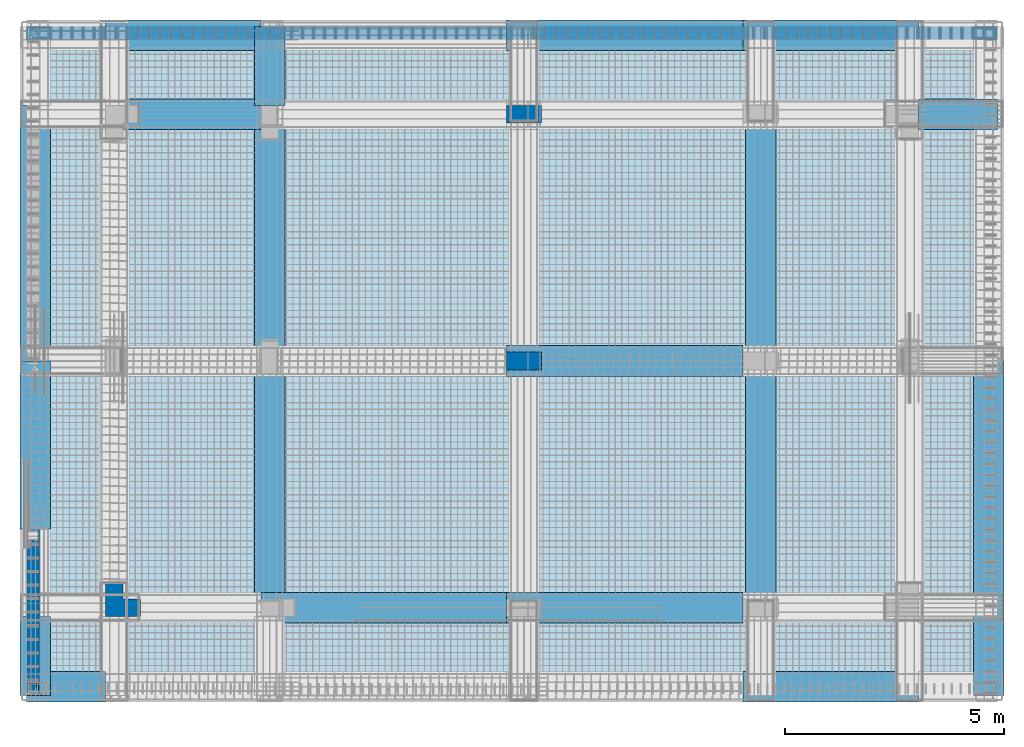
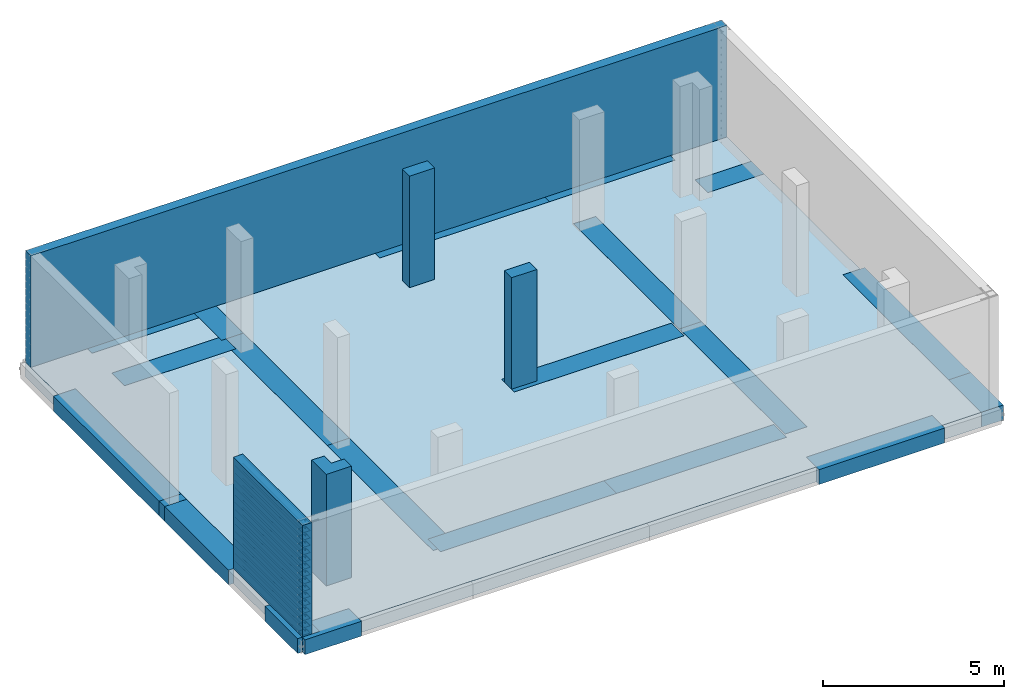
# One storey, part 1 of 9: 21 beams, 3 columns, 2 reinforcing bars, 2 walls, 1 footing.
"""IFC4 building model written with IfcOpenShell, lengths in metres."""

import ifcopenshell
import ifcopenshell.guid

model = None  # the IFC model being written
_history = None  # IfcOwnerHistory: only IFC2X3 demands one
_inside = {}  # id of a spatial element -> (the spatial element, [elements in it])
_under = {}  # id of a project, library or spatial element -> (it, [spatial elements below it])
_declared = {}  # id of a project -> (the project, [libraries it declares])
_typed = {}  # id of a type object -> (the type object, [elements of that type])
_made_of = {}  # id of a material, layer set ... -> (it, [elements and type objects made of it])


def new_model(schema):
    """Start an empty IFC model of exactly this schema.

    Asked for "IFC4X3", IfcOpenShell would pick the latest addendum, in which some entities
    have other attributes; the version numbers below select the first issue.
    IFC2X3 requires an IfcOwnerHistory on every rooted entity: one is made here for all.
    """
    global model, _history
    if schema == "IFC4X3":
        model = ifcopenshell.file(schema_version=(4, 3, 0, 0))
    else:
        model = ifcopenshell.file(schema=schema)
    _inside.clear()
    _under.clear()
    _declared.clear()
    _typed.clear()
    _made_of.clear()
    _history = None
    if model.schema == "IFC2X3":
        org = make("IfcOrganization", Name="unknown")
        user = make(
            "IfcPersonAndOrganization",
            ThePerson=make("IfcPerson", FamilyName="unknown"),
            TheOrganization=org,
        )
        app = make(
            "IfcApplication",
            ApplicationDeveloper=org,
            Version="unknown",
            ApplicationFullName="unknown",
            ApplicationIdentifier="unknown",
        )
        _history = make(
            "IfcOwnerHistory",
            OwningUser=user,
            OwningApplication=app,
            ChangeAction="ADDED",
            CreationDate=0,
        )
    return model


def make(cls, **values):
    """One entity of the class cls with the attributes given. An attribute that is None is left unset."""
    return model.create_entity(
        cls, **{name: value for name, value in values.items() if value is not None}
    )


def entity(cls, *values):
    """Any entity or typed value of the class cls, its attributes in the order of the schema. None: left unset."""
    e = model.create_entity(cls)
    for i, value in enumerate(values):
        if value is not None:
            e[i] = value
    return e


def rooted(cls, **values):
    """An entity with a GlobalId (a new one), such as an element, a storey or a relation."""
    return make(cls, GlobalId=ifcopenshell.guid.new(), OwnerHistory=_history, **values)


def si_unit(unit_type, name, prefix=None):
    """IfcSIUnit, for example si_unit("LENGTHUNIT", "METRE", prefix="MILLI")."""
    return make("IfcSIUnit", UnitType=unit_type, Prefix=prefix, Name=name)


def assignment(units):
    """IfcUnitAssignment: the units of a project."""
    return None if units is None else make("IfcUnitAssignment", Units=units)


def point(xyz):
    """IfcCartesianPoint."""
    return None if xyz is None else make("IfcCartesianPoint", Coordinates=xyz)


def direction(xyz):
    """IfcDirection."""
    return None if xyz is None else make("IfcDirection", DirectionRatios=xyz)


def frame(location, z_axis=None, x_axis=None):
    """IfcAxis2Placement3D, a coordinate frame: its origin and axes. An axis left out is left unset."""
    return make(
        "IfcAxis2Placement3D",
        Location=point(location),
        Axis=direction(z_axis),
        RefDirection=direction(x_axis),
    )


def frame_2d(location, x_axis=None):
    """IfcAxis2Placement2D, a coordinate frame in the plane: its origin and x axis."""
    return make(
        "IfcAxis2Placement2D", Location=point(location), RefDirection=direction(x_axis)
    )


def origin_with_axes():
    """The frame at (0, 0, 0) with the z axis (0, 0, 1) and the x axis (1, 0, 0) written out."""
    return frame((0.0, 0.0, 0.0), z_axis=(0.0, 0.0, 1.0), x_axis=(1.0, 0.0, 0.0))


def origin_2d_with_axis():
    """The frame at (0, 0) in the plane with the x axis (1, 0) written out."""
    return frame_2d((0.0, 0.0), x_axis=(1.0, 0.0))


def place(relative_to, where):
    """IfcLocalPlacement: puts the frame where relative to a parent placement (None: the world)."""
    return make(
        "IfcLocalPlacement", PlacementRelTo=relative_to, RelativePlacement=where
    )


def context(
    kind, dimensions, precision=None, world=None, true_north=None, identifier=None
):
    """IfcGeometricRepresentationContext, for example the 3D "Model" context."""
    return make(
        "IfcGeometricRepresentationContext",
        ContextIdentifier=identifier,
        ContextType=kind,
        CoordinateSpaceDimension=dimensions,
        Precision=precision,
        WorldCoordinateSystem=world,
        TrueNorth=true_north,
    )


def project(units=None, contexts=None):
    """IfcProject with its units and contexts."""
    return rooted(
        "IfcProject",
        Name="project",
        RepresentationContexts=contexts,
        UnitsInContext=assignment(units),
    )


def spatial(cls, under=None, at=None, **own):
    """A site, building, storey or space (cls), placed at a placement, below another one or the project."""
    s = rooted(cls, ObjectPlacement=at, **own)
    if under is not None:
        _under.setdefault(under.id(), (under, []))[1].append(s)
    return s


def polyline(points):
    """IfcPolyline through the points."""
    return make("IfcPolyline", Points=[point(p) for p in points])


def profile(cls, at=None, kind="AREA", **sizes):
    """A parametric profile (cls). Its sizes go by their IFC names, for example OverallWidth=200.0."""
    return make(cls, ProfileType=kind, Position=at, **sizes)


def rectangle(**sizes):
    """IfcRectangleProfileDef."""
    return profile("IfcRectangleProfileDef", **sizes)


def outline(outer, holes=None, kind="AREA"):
    """IfcArbitraryClosedProfileDef: a profile drawn as a closed curve; with holes, ...WithVoids."""
    if holes is None:
        return make("IfcArbitraryClosedProfileDef", ProfileType=kind, OuterCurve=outer)
    return make(
        "IfcArbitraryProfileDefWithVoids",
        ProfileType=kind,
        OuterCurve=outer,
        InnerCurves=holes,
    )


def extrude(swept, where, along, depth):
    """IfcExtrudedAreaSolid: the profile swept, set in the frame where, extruded along a direction by depth."""
    return make(
        "IfcExtrudedAreaSolid",
        SweptArea=swept,
        Position=where,
        ExtrudedDirection=direction(along),
        Depth=depth,
    )


def faces_of(points, faces, orient=None, outer=None):
    """IfcFace entities. A face is a list of loops; a loop is a list of indices into points, from 0.

    orient and outer hold one flag for each loop. By default every Orientation is true, the
    first loop of a face is its IfcFaceOuterBound and the others are IfcFaceBound.
    """
    made = []
    for i, loops in enumerate(faces):
        bounds = []
        for j, loop in enumerate(loops):
            is_outer = j == 0 if outer is None else outer[i][j]
            bounds.append(
                make(
                    "IfcFaceOuterBound" if is_outer else "IfcFaceBound",
                    Bound=make("IfcPolyLoop", Polygon=[points[k] for k in loop]),
                    Orientation=True if orient is None else orient[i][j],
                )
            )
        made.append(make("IfcFace", Bounds=bounds))
    return made


def faceted_brep(points, faces, orient=None, outer=None, voids=None):
    """IfcFacetedBrep: a solid bounded by flat faces; with voids (closed shells), ...WithVoids."""
    shared = [point(p) for p in points]
    hull = make("IfcClosedShell", CfsFaces=faces_of(shared, faces, orient, outer))
    if voids is None:
        return make("IfcFacetedBrep", Outer=hull)
    return make(
        "IfcFacetedBrepWithVoids",
        Outer=hull,
        Voids=[
            make(cls, CfsFaces=faces_of(shared, fs, o, b)) for cls, fs, o, b in voids
        ],
    )


def shape(context_of_items, identifier, shape_type, items):
    """IfcShapeRepresentation: the items that make up one representation, for example the "Body"."""
    return make(
        "IfcShapeRepresentation",
        ContextOfItems=context_of_items,
        RepresentationIdentifier=identifier,
        RepresentationType=shape_type,
        Items=items,
    )


def source(mapping_origin, context_of_items, identifier, shape_type, items):
    """IfcRepresentationMap: a shape defined once, which mapped items show again and again."""
    return make(
        "IfcRepresentationMap",
        MappingOrigin=mapping_origin,
        MappedRepresentation=shape(context_of_items, identifier, shape_type, items),
    )


def transform(
    local_origin,
    x_axis=None,
    y_axis=None,
    z_axis=None,
    scale=None,
    scale2=None,
    scale3=None,
    uniform=True,
):
    """IfcCartesianTransformationOperator3D, or its non-uniform kind. x_axis, y_axis, z_axis: its Axis1, 2, 3."""
    if uniform:
        return make(
            "IfcCartesianTransformationOperator3D",
            Axis1=direction(x_axis),
            Axis2=direction(y_axis),
            LocalOrigin=point(local_origin),
            Scale=scale,
            Axis3=direction(z_axis),
        )
    return make(
        "IfcCartesianTransformationOperator3DnonUniform",
        Axis1=direction(x_axis),
        Axis2=direction(y_axis),
        LocalOrigin=point(local_origin),
        Scale=scale,
        Axis3=direction(z_axis),
        Scale2=scale2,
        Scale3=scale3,
    )


def mapped(mapping_source, mapping_target):
    """IfcMappedItem: shows the shape of a source again, moved by a transform."""
    return make(
        "IfcMappedItem", MappingSource=mapping_source, MappingTarget=mapping_target
    )


def material(Name=None, Category=None):
    """IfcMaterial."""
    return make("IfcMaterial", Name=Name, Category=Category)


def layer(
    of_material, thickness, ventilated=None, Name=None, Category=None, Priority=None
):
    """IfcMaterialLayer: one layer of a wall or slab, of a material (None: an air gap)."""
    return make(
        "IfcMaterialLayer",
        Material=of_material,
        LayerThickness=thickness,
        IsVentilated=ventilated,
        Name=Name,
        Category=Category,
        Priority=Priority,
    )


def layer_set(layers, Name=None):
    """IfcMaterialLayerSet."""
    return make("IfcMaterialLayerSet", MaterialLayers=layers, LayerSetName=Name)


def layer_usage(for_layer_set, set_direction, sense, offset, extent=None):
    """IfcMaterialLayerSetUsage: how a layer set lies in its element."""
    return make(
        "IfcMaterialLayerSetUsage",
        ForLayerSet=for_layer_set,
        LayerSetDirection=set_direction,
        DirectionSense=sense,
        OffsetFromReferenceLine=offset,
        ReferenceExtent=extent,
    )


def material_profile(
    of_material, cross_section, Name=None, Category=None, Priority=None
):
    """IfcMaterialProfile: a cross section and its material."""
    return make(
        "IfcMaterialProfile",
        Name=Name,
        Material=of_material,
        Profile=cross_section,
        Priority=Priority,
        Category=Category,
    )


def profile_set(profiles, Name=None, composite=None):
    """IfcMaterialProfileSet."""
    return make(
        "IfcMaterialProfileSet",
        Name=Name,
        MaterialProfiles=profiles,
        CompositeProfile=composite,
    )


def profile_usage(for_profile_set, cardinal=None, extent=None):
    """IfcMaterialProfileSetUsage: how a profile set lies along its element."""
    return make(
        "IfcMaterialProfileSetUsage",
        ForProfileSet=for_profile_set,
        CardinalPoint=cardinal,
        ReferenceExtent=extent,
    )


def made_of(thing, what):
    """Note that an element or type object is made of a material, layer set ...; save() writes the relation."""
    if what is not None:
        _made_of.setdefault(what.id(), (what, []))[1].append(thing)
    return thing


def type_object(cls, material=None, **own):
    """A type object (cls), such as IfcWallType, which elements share."""
    return made_of(rooted(cls, **own), material)


def element(
    cls,
    number,
    at=None,
    inside=None,
    cuts=None,
    type_object=None,
    material=None,
    context=None,
    identifier="Body",
    shape_type=None,
    held_by="IfcProductDefinitionShape",
    body=None,
    shapes=None,
    **own,
):
    """One element of the class cls, such as IfcWall. Its Tag is "e" and its number.

    at: its placement. inside: the storey or other place that contains it. cuts: it is an
    opening in that element (IfcRelVoidsElement). A single representation is given by context,
    identifier, shape_type and body (its items); several are given by shapes. held_by: the class
    of the entity that holds the representations. save() writes the other relations.
    """
    e = rooted(cls, Tag="e%d" % number, ObjectPlacement=at, **own)
    if body is not None:
        shapes = [shape(context, identifier, shape_type, body)]
    if shapes is not None:
        e.Representation = make(held_by, Representations=shapes)
    if inside is not None:
        _inside.setdefault(inside.id(), (inside, []))[1].append(e)
    if cuts is not None:
        rooted(
            "IfcRelVoidsElement", RelatingBuildingElement=cuts, RelatedOpeningElement=e
        )
    if type_object is not None:
        _typed.setdefault(type_object.id(), (type_object, []))[1].append(e)
    return made_of(e, material)


def aggregate(whole, parts):
    """IfcRelAggregates: a whole, such as a stair, and the parts it consists of."""
    return rooted("IfcRelAggregates", RelatingObject=whole, RelatedObjects=parts)


def save(model, path):
    """Write the relations noted so far, then the file.

    IfcRelAggregates (storeys below a building ...), IfcRelContainedInSpatialStructure (elements
    in a storey), IfcRelDefinesByType, IfcRelAssociatesMaterial and IfcRelDeclares: one each for
    every whole, place, type object, material and project.
    """
    for whole, parts in _under.values():
        aggregate(whole, parts)
    for where, things in _inside.values():
        rooted(
            "IfcRelContainedInSpatialStructure",
            RelatedElements=things,
            RelatingStructure=where,
        )
    for kind, things in _typed.values():
        rooted("IfcRelDefinesByType", RelatedObjects=things, RelatingType=kind)
    for what, things in _made_of.values():
        rooted("IfcRelAssociatesMaterial", RelatedObjects=things, RelatingMaterial=what)
    for by, libraries in _declared.values():
        rooted("IfcRelDeclares", RelatingContext=by, RelatedDefinitions=libraries)
    model.write(path)


model = new_model("IFC4")

# Units and contexts
model_context = context("Model", 3, precision=1e-05, world=origin_with_axes())
ifc_project = project(units=[si_unit("LENGTHUNIT", "METRE"), si_unit("AREAUNIT", "SQUARE_METRE"), si_unit("VOLUMEUNIT", "CUBIC_METRE"), si_unit("MASSUNIT", "GRAM", prefix="KILO"), si_unit("TIMEUNIT", "SECOND"), si_unit("PLANEANGLEUNIT", "RADIAN"), si_unit("SOLIDANGLEUNIT", "STERADIAN"), si_unit("THERMODYNAMICTEMPERATUREUNIT", "DEGREE_CELSIUS")], contexts=[model_context])

# Site, building, storey
placement_1 = place(None, origin_with_axes())
site = spatial("IfcSite", under=ifc_project, at=placement_1, Name="Italia", CompositionType="ELEMENT")
building = spatial("IfcBuilding", under=site, at=placement_1, Name="Palazzina", CompositionType="ELEMENT")
storey = spatial("IfcBuildingStorey", under=building, at=placement_1, Name="Storey 0", CompositionType="ELEMENT", Elevation=0.0)

# Footing
ifc_material_1 = material(Name="Calcestruzzo classe C28/35", Category="Calcestruzzo classe C28/35")
ifc_layer_1 = layer(ifc_material_1, 0.5)
ifc_layer_set_1 = layer_set([ifc_layer_1])
ifc_layer_usage_1 = layer_usage(ifc_layer_set_1, "AXIS3", "POSITIVE", -0.5)
footing_type = type_object("IfcFootingType", Name="3 Spess. 0.5 S W", PredefinedType="STRIP_FOOTING")
placement_2 = place(placement_1, origin_with_axes())
footing_placement = place(placement_2, origin_with_axes())
element("IfcFooting", 1, at=footing_placement, inside=storey, type_object=footing_type, material=ifc_layer_usage_1, context=model_context, shape_type="Brep", body=[
    faceted_brep([(-1.8, 13.46, 0.0), (-1.8, 13.46, -0.5), (20.35, 13.46, -0.5), (20.35, 13.46, 0.0), (20.35, 13.46, 0.0), (20.35, 13.46, -0.5), (20.35, -1.8, -0.5), (20.35, -1.8, 0.0), (20.35, -1.8, 0.0), (20.35, -1.8, -0.5), (-1.8, -1.8, -0.5), (-1.8, -1.8, 0.0), (-1.8, -1.8, 0.0), (-1.8, -1.8, -0.5), (-1.8, 13.46, -0.5), (-1.8, 13.46, 0.0), (-1.8, 13.46, -0.5), (20.35, 13.46, -0.5), (20.35, -1.8, -0.5), (-1.8, -1.8, -0.5), (-1.8, 13.46, 0.0), (20.35, 13.46, 0.0), (20.35, -1.8, 0.0), (-1.8, -1.8, 0.0)], [[[0, 1, 2, 3]], [[4, 5, 6, 7]], [[8, 9, 10, 11]], [[12, 13, 14, 15]], [[16, 17, 18, 19]], [[20, 21, 22, 23]]]),
])

# Columns
ifc_material_2 = material(Name="Calcestruzzo classe C28/35", Category="Calcestruzzo classe C28/35")
ifc_material_profile = material_profile(ifc_material_2, rectangle(XDim=0.4, YDim=0.8, at=origin_2d_with_axis()), Name="2 R 40x80 P")
ifc_profile_set = profile_set([ifc_material_profile])
ifc_profile_usage_1 = profile_usage(ifc_profile_set, cardinal=3)
column_type_1 = type_object("IfcColumnType", Name="2 R 40x80 P", PredefinedType="COLUMN", material=ifc_profile_usage_1)
column_1_placement = place(placement_2, origin_with_axes())
element("IfcColumn", 2, at=column_1_placement, inside=storey, type_object=column_type_1, Name="13", context=model_context, shape_type="SweptSolid", body=[
    extrude(rectangle(XDim=0.4, YDim=0.8, at=origin_2d_with_axis()), frame((9.55, 11.46, 0.0), z_axis=(0.0, 0.0, 1.0), x_axis=(0.0, 1.0, 0.0)), (0.0, 0.0, 1.0), 3.75),
])
ifc_profile_usage_2 = profile_usage(ifc_profile_set, cardinal=7)
column_type_2 = type_object("IfcColumnType", Name="4 L 40x40x80x40 P", PredefinedType="COLUMN", material=ifc_profile_usage_2)
column_2_placement = place(placement_2, origin_with_axes())
element("IfcColumn", 3, at=column_2_placement, inside=storey, type_object=column_type_2, Name="1", context=model_context, shape_type="SweptSolid", body=[
    extrude(outline(polyline([(0.4, 0.4), (0.4, 0.0), (0.0, 0.0), (0.0, -0.4), (-0.4, -0.4), (-0.4, 0.4), (0.4, 0.4)])), frame((0.4, 0.4, 0.0), z_axis=(0.0, 0.0, 1.0), x_axis=(0.0, 1.0, 0.0)), (0.0, 0.0, 1.0), 3.75),
])
ifc_profile_usage_3 = profile_usage(ifc_profile_set, cardinal=2)
column_type_3 = type_object("IfcColumnType", Name="2 R 40x80 P", PredefinedType="COLUMN", material=ifc_profile_usage_3)
column_3_placement = place(placement_2, origin_with_axes())
element("IfcColumn", 4, at=column_3_placement, inside=storey, type_object=column_type_3, Name="8", context=model_context, shape_type="SweptSolid", body=[
    extrude(rectangle(XDim=0.4, YDim=0.8, at=origin_2d_with_axis()), frame((9.55, 5.83, 0.0), z_axis=(0.0, 0.0, 1.0), x_axis=(0.0, 1.0, 0.0)), (0.0, 0.0, 1.0), 3.75),
])

# Beams
ifc_profile_usage_4 = profile_usage(ifc_profile_set, cardinal=1)
beam_type_1 = type_object("IfcBeamType", Name="8 R 70x50 T", PredefinedType="BEAM", material=ifc_profile_usage_4)
beam_1_placement = place(placement_2, origin_with_axes())
element("IfcBeam", 5, at=beam_1_placement, inside=storey, type_object=beam_type_1, Name="506", context=model_context, shape_type="SweptSolid", body=[
    extrude(rectangle(XDim=0.5, YDim=0.7, at=frame_2d((0.0, 0.0), x_axis=(0.0, 1.0))), frame((-1.6, 5.83, -0.25), z_axis=(0.0, -1.0, 0.0), x_axis=(1.0, 0.0, 0.0)), (0.0, 0.0, 1.0), 0.3),
])
ifc_profile_usage_5 = profile_usage(ifc_profile_set, cardinal=1)
beam_type_2 = type_object("IfcBeamType", Name="8 R 70x50 T", PredefinedType="BEAM", material=ifc_profile_usage_5)
beam_2_placement = place(placement_2, origin_with_axes())
element("IfcBeam", 6, at=beam_2_placement, inside=storey, type_object=beam_type_2, Name="501", context=model_context, shape_type="SweptSolid", body=[
    extrude(rectangle(XDim=0.5, YDim=0.7, at=frame_2d((0.0, 0.0), x_axis=(0.0, 1.0))), frame((-1.8, -1.6, -0.25), z_axis=(1.0, 0.0, 0.0), x_axis=(0.0, 1.0, 0.0)), (0.0, 0.0, 1.0), 1.8),
])
ifc_profile_usage_6 = profile_usage(ifc_profile_set, cardinal=1)
beam_type_3 = type_object("IfcBeamType", Name="8 R 70x50 T", PredefinedType="BEAM", material=ifc_profile_usage_6)
beam_3_placement = place(placement_2, origin_with_axes())
element("IfcBeam", 7, at=beam_3_placement, inside=storey, type_object=beam_type_3, Name="512", context=model_context, shape_type="SweptSolid", body=[
    extrude(rectangle(XDim=0.5, YDim=0.7, at=frame_2d((0.0, 0.0), x_axis=(0.0, 1.0))), frame((20.15, -1.8, -0.25), z_axis=(0.0, 1.0, 0.0), x_axis=(-1.0, 0.0, 0.0)), (0.0, 0.0, 1.0), 1.8),
])
ifc_profile_usage_7 = profile_usage(ifc_profile_set, cardinal=1)
beam_type_4 = type_object("IfcBeamType", Name="8 R 70x50 T", PredefinedType="BEAM", material=ifc_profile_usage_7)
beam_4_placement = place(placement_2, origin_with_axes())
element("IfcBeam", 8, at=beam_4_placement, inside=storey, type_object=beam_type_4, Name="505", context=model_context, shape_type="SweptSolid", body=[
    extrude(rectangle(XDim=0.5, YDim=0.7, at=frame_2d((0.0, 0.0), x_axis=(0.0, 1.0))), frame((18.55, 13.26, -0.25), z_axis=(-1.0, 0.0, 0.0), x_axis=(0.0, -1.0, 0.0)), (0.0, 0.0, 1.0), 4.0),
])
ifc_profile_usage_8 = profile_usage(ifc_profile_set, cardinal=1)
beam_type_5 = type_object("IfcBeamType", Name="8 R 70x50 T", PredefinedType="BEAM", material=ifc_profile_usage_8)
beam_5_placement = place(placement_2, origin_with_axes())
element("IfcBeam", 9, at=beam_5_placement, inside=storey, type_object=beam_type_5, Name="506", context=model_context, shape_type="SweptSolid", body=[
    extrude(rectangle(XDim=0.5, YDim=0.7, at=frame_2d((0.0, 0.0), x_axis=(0.0, 1.0))), frame((-1.6, 0.0, -0.25), z_axis=(0.0, -1.0, 0.0), x_axis=(1.0, 0.0, 0.0)), (0.0, 0.0, 1.0), 1.8),
])
ifc_profile_usage_9 = profile_usage(ifc_profile_set, cardinal=1)
beam_type_6 = type_object("IfcBeamType", Name="8 R 70x50 T", PredefinedType="BEAM", material=ifc_profile_usage_9)
beam_6_placement = place(placement_2, origin_with_axes())
element("IfcBeam", 10, at=beam_6_placement, inside=storey, type_object=beam_type_6, Name="506", context=model_context, shape_type="SweptSolid", body=[
    extrude(rectangle(XDim=0.5, YDim=0.7, at=frame_2d((0.0, 0.0), x_axis=(0.0, 1.0))), frame((-1.6, 5.53, -0.25), z_axis=(0.0, -1.0, 0.0), x_axis=(1.0, 0.0, 0.0)), (0.0, 0.0, 1.0), 3.53),
])
ifc_profile_usage_10 = profile_usage(ifc_profile_set, cardinal=1)
beam_type_7 = type_object("IfcBeamType", Name="8 R 70x50 T", PredefinedType="BEAM", material=ifc_profile_usage_10)
beam_7_placement = place(placement_2, origin_with_axes())
element("IfcBeam", 11, at=beam_7_placement, inside=storey, type_object=beam_type_7, Name="502", context=model_context, shape_type="SweptSolid", body=[
    extrude(rectangle(XDim=0.5, YDim=0.7, at=frame_2d((0.0, 0.0), x_axis=(0.0, 1.0))), frame((3.55, 0.2, -0.25), z_axis=(1.0, 0.0, 0.0), x_axis=(0.0, 1.0, 0.0)), (0.0, 0.0, 1.0), 5.6),
])
ifc_profile_usage_11 = profile_usage(ifc_profile_set, cardinal=1)
beam_type_8 = type_object("IfcBeamType", Name="8 R 70x50 T", PredefinedType="BEAM", material=ifc_profile_usage_11)
beam_8_placement = place(placement_2, origin_with_axes())
element("IfcBeam", 12, at=beam_8_placement, inside=storey, type_object=beam_type_8, Name="502", context=model_context, shape_type="SweptSolid", body=[
    extrude(rectangle(XDim=0.5, YDim=0.7, at=frame_2d((0.0, 0.0), x_axis=(0.0, 1.0))), frame((9.15, 0.2, -0.25), z_axis=(1.0, 0.0, 0.0), x_axis=(0.0, 1.0, 0.0)), (0.0, 0.0, 1.0), 5.4),
])
ifc_profile_usage_12 = profile_usage(ifc_profile_set, cardinal=3)
beam_type_9 = type_object("IfcBeamType", Name="8 R 70x50 T", PredefinedType="BEAM", material=ifc_profile_usage_12)
beam_9_placement = place(placement_2, origin_with_axes())
element("IfcBeam", 13, at=beam_9_placement, inside=storey, type_object=beam_type_9, Name="508", context=model_context, shape_type="SweptSolid", body=[
    extrude(rectangle(XDim=0.5, YDim=0.7, at=frame_2d((0.0, 0.0), x_axis=(0.0, 1.0))), frame((3.75, 0.0, -0.25), z_axis=(0.0, 1.0, 0.0), x_axis=(-1.0, 0.0, 0.0)), (0.0, 0.0, 1.0), 5.83),
])
ifc_profile_usage_13 = profile_usage(ifc_profile_set, cardinal=1)
beam_type_10 = type_object("IfcBeamType", Name="8 R 70x50 T", PredefinedType="BEAM", material=ifc_profile_usage_13)
beam_10_placement = place(placement_2, origin_with_axes())
element("IfcBeam", 14, at=beam_10_placement, inside=storey, type_object=beam_type_10, Name="512", context=model_context, shape_type="SweptSolid", body=[
    extrude(rectangle(XDim=0.5, YDim=0.7, at=frame_2d((0.0, 0.0), x_axis=(0.0, 1.0))), frame((20.15, 0.0, -0.25), z_axis=(0.0, 1.0, 0.0), x_axis=(-1.0, 0.0, 0.0)), (0.0, 0.0, 1.0), 5.83),
])
ifc_profile_usage_14 = profile_usage(ifc_profile_set, cardinal=3)
beam_type_11 = type_object("IfcBeamType", Name="8 R 70x50 T", PredefinedType="BEAM", material=ifc_profile_usage_14)
beam_11_placement = place(placement_2, origin_with_axes())
element("IfcBeam", 15, at=beam_11_placement, inside=storey, type_object=beam_type_11, Name="510", context=model_context, shape_type="SweptSolid", body=[
    extrude(rectangle(XDim=0.5, YDim=0.7, at=frame_2d((0.0, 0.0), x_axis=(0.0, 1.0))), frame((14.95, 0.0, -0.25), z_axis=(0.0, 1.0, 0.0), x_axis=(-1.0, 0.0, 0.0)), (0.0, 0.0, 1.0), 5.83),
])
ifc_profile_usage_15 = profile_usage(ifc_profile_set, cardinal=3)
beam_type_12 = type_object("IfcBeamType", Name="8 R 70x50 T", PredefinedType="BEAM", material=ifc_profile_usage_15)
beam_12_placement = place(placement_2, origin_with_axes())
element("IfcBeam", 16, at=beam_12_placement, inside=storey, type_object=beam_type_12, Name="504", context=model_context, shape_type="SweptSolid", body=[
    extrude(rectangle(XDim=0.5, YDim=0.7, at=frame_2d((0.0, 0.0), x_axis=(0.0, 1.0))), frame((18.55, 11.46, -0.25), z_axis=(1.0, 0.0, 0.0), x_axis=(0.0, 1.0, 0.0)), (0.0, 0.0, 1.0), 1.8),
])
ifc_profile_usage_16 = profile_usage(ifc_profile_set, cardinal=1)
beam_type_13 = type_object("IfcBeamType", Name="8 R 70x50 T", PredefinedType="BEAM", material=ifc_profile_usage_16)
beam_13_placement = place(placement_2, origin_with_axes())
element("IfcBeam", 17, at=beam_13_placement, inside=storey, type_object=beam_type_13, Name="505", context=model_context, shape_type="SweptSolid", body=[
    extrude(rectangle(XDim=0.5, YDim=0.7, at=frame_2d((0.0, 0.0), x_axis=(0.0, 1.0))), frame((14.55, 13.26, -0.25), z_axis=(-1.0, 0.0, 0.0), x_axis=(0.0, -1.0, 0.0)), (0.0, 0.0, 1.0), 5.4),
])
ifc_profile_usage_17 = profile_usage(ifc_profile_set, cardinal=3)
beam_type_14 = type_object("IfcBeamType", Name="8 R 70x50 T", PredefinedType="BEAM", material=ifc_profile_usage_17)
beam_14_placement = place(placement_2, origin_with_axes())
element("IfcBeam", 18, at=beam_14_placement, inside=storey, type_object=beam_type_14, Name="508", context=model_context, shape_type="SweptSolid", body=[
    extrude(rectangle(XDim=0.5, YDim=0.7, at=frame_2d((0.0, 0.0), x_axis=(0.0, 1.0))), frame((3.75, 11.66, -0.25), z_axis=(0.0, 1.0, 0.0), x_axis=(-1.0, 0.0, 0.0)), (0.0, 0.0, 1.0), 1.8),
])
ifc_profile_usage_18 = profile_usage(ifc_profile_set, cardinal=1)
beam_type_15 = type_object("IfcBeamType", Name="8 R 70x50 T", PredefinedType="BEAM", material=ifc_profile_usage_18)
beam_15_placement = place(placement_2, origin_with_axes())
element("IfcBeam", 19, at=beam_15_placement, inside=storey, type_object=beam_type_15, Name="505", context=model_context, shape_type="SweptSolid", body=[
    extrude(rectangle(XDim=0.5, YDim=0.7, at=frame_2d((0.0, 0.0), x_axis=(0.0, 1.0))), frame((3.55, 13.26, -0.25), z_axis=(-1.0, 0.0, 0.0), x_axis=(0.0, -1.0, 0.0)), (0.0, 0.0, 1.0), 3.55),
])
ifc_profile_usage_19 = profile_usage(ifc_profile_set, cardinal=2)
beam_type_16 = type_object("IfcBeamType", Name="8 R 70x50 T", PredefinedType="BEAM", material=ifc_profile_usage_19)
beam_16_placement = place(placement_2, origin_with_axes())
element("IfcBeam", 20, at=beam_16_placement, inside=storey, type_object=beam_type_16, Name="503", context=model_context, shape_type="SweptSolid", body=[
    extrude(rectangle(XDim=0.5, YDim=0.7, at=frame_2d((0.0, 0.0), x_axis=(0.0, 1.0))), frame((9.15, 5.83, -0.25), z_axis=(1.0, 0.0, 0.0), x_axis=(0.0, 1.0, 0.0)), (0.0, 0.0, 1.0), 5.4),
])
ifc_profile_usage_20 = profile_usage(ifc_profile_set, cardinal=1)
beam_type_17 = type_object("IfcBeamType", Name="8 R 70x50 T", PredefinedType="BEAM", material=ifc_profile_usage_20)
beam_17_placement = place(placement_2, origin_with_axes())
element("IfcBeam", 21, at=beam_17_placement, inside=storey, type_object=beam_type_17, Name="501", context=model_context, shape_type="SweptSolid", body=[
    extrude(rectangle(XDim=0.5, YDim=0.7, at=frame_2d((0.0, 0.0), x_axis=(0.0, 1.0))), frame((14.55, -1.6, -0.25), z_axis=(1.0, 0.0, 0.0), x_axis=(0.0, 1.0, 0.0)), (0.0, 0.0, 1.0), 4.0),
])
ifc_profile_usage_21 = profile_usage(ifc_profile_set, cardinal=1)
beam_type_18 = type_object("IfcBeamType", Name="8 R 70x50 T", PredefinedType="BEAM", material=ifc_profile_usage_21)
beam_18_placement = place(placement_2, origin_with_axes())
element("IfcBeam", 22, at=beam_18_placement, inside=storey, type_object=beam_type_18, Name="506", context=model_context, shape_type="SweptSolid", body=[
    extrude(rectangle(XDim=0.5, YDim=0.7, at=frame_2d((0.0, 0.0), x_axis=(0.0, 1.0))), frame((-1.6, 11.66, -0.25), z_axis=(0.0, -1.0, 0.0), x_axis=(1.0, 0.0, 0.0)), (0.0, 0.0, 1.0), 5.83),
])
ifc_profile_usage_22 = profile_usage(ifc_profile_set, cardinal=3)
beam_type_19 = type_object("IfcBeamType", Name="8 R 70x50 T", PredefinedType="BEAM", material=ifc_profile_usage_22)
beam_19_placement = place(placement_2, origin_with_axes())
element("IfcBeam", 23, at=beam_19_placement, inside=storey, type_object=beam_type_19, Name="510", context=model_context, shape_type="SweptSolid", body=[
    extrude(rectangle(XDim=0.5, YDim=0.7, at=frame_2d((0.0, 0.0), x_axis=(0.0, 1.0))), frame((14.95, 5.83, -0.25), z_axis=(0.0, 1.0, 0.0), x_axis=(-1.0, 0.0, 0.0)), (0.0, 0.0, 1.0), 5.83),
])
ifc_profile_usage_23 = profile_usage(ifc_profile_set, cardinal=3)
beam_type_20 = type_object("IfcBeamType", Name="8 R 70x50 T", PredefinedType="BEAM", material=ifc_profile_usage_23)
beam_20_placement = place(placement_2, origin_with_axes())
element("IfcBeam", 24, at=beam_20_placement, inside=storey, type_object=beam_type_20, Name="508", context=model_context, shape_type="SweptSolid", body=[
    extrude(rectangle(XDim=0.5, YDim=0.7, at=frame_2d((0.0, 0.0), x_axis=(0.0, 1.0))), frame((3.75, 5.83, -0.25), z_axis=(0.0, 1.0, 0.0), x_axis=(-1.0, 0.0, 0.0)), (0.0, 0.0, 1.0), 5.83),
])
ifc_profile_usage_24 = profile_usage(ifc_profile_set, cardinal=3)
beam_type_21 = type_object("IfcBeamType", Name="8 R 70x50 T", PredefinedType="BEAM", material=ifc_profile_usage_24)
beam_21_placement = place(placement_2, origin_with_axes())
element("IfcBeam", 25, at=beam_21_placement, inside=storey, type_object=beam_type_21, Name="504", context=model_context, shape_type="SweptSolid", body=[
    extrude(rectangle(XDim=0.5, YDim=0.7, at=frame_2d((0.0, 0.0), x_axis=(0.0, 1.0))), frame((0.0, 11.46, -0.25), z_axis=(1.0, 0.0, 0.0), x_axis=(0.0, 1.0, 0.0)), (0.0, 0.0, 1.0), 3.55),
])

# Walls
ifc_material_3 = material(Name="Calcestruzzo classe C28/35", Category="Calcestruzzo classe C28/35")
ifc_layer_2 = layer(ifc_material_3, 0.3)
ifc_layer_set_2 = layer_set([ifc_layer_2])
ifc_layer_usage_2 = layer_usage(ifc_layer_set_2, "AXIS2", "POSITIVE", -0.3)
wall_type_1 = type_object("IfcWallType", Name="1 Spess. 0.3 P F", PredefinedType="STANDARD")
wall_1_placement = place(placement_2, origin_with_axes())
element("IfcWallStandardCase", 26, at=wall_1_placement, inside=storey, type_object=wall_type_1, material=ifc_layer_usage_2, Name="113", context=model_context, shape_type="SweptSolid", body=[
    extrude(rectangle(XDim=3.8, YDim=0.3, at=origin_2d_with_axis()), frame((-1.65, 0.1, 0.0), z_axis=(0.0, 0.0, 1.0), x_axis=(0.0, 1.0, 0.0)), (0.0, 0.0, 1.0), 3.75),
])
ifc_material_4 = material(Name="Calcestruzzo classe C28/35", Category="Calcestruzzo classe C28/35")
ifc_layer_3 = layer(ifc_material_4, 0.3)
ifc_layer_set_3 = layer_set([ifc_layer_3])
ifc_layer_usage_3 = layer_usage(ifc_layer_set_3, "AXIS2", "POSITIVE", -0.3)
wall_type_2 = type_object("IfcWallType", Name="1 Spess. 0.3 P F", PredefinedType="STANDARD")
wall_2_placement = place(placement_2, origin_with_axes())
element("IfcWallStandardCase", 27, at=wall_2_placement, inside=storey, type_object=wall_type_2, material=ifc_layer_usage_3, Name="111", context=model_context, shape_type="SweptSolid", body=[
    extrude(rectangle(XDim=22.15, YDim=0.3, at=origin_2d_with_axis()), frame((9.275, 13.31, 0.0), z_axis=(0.0, 0.0, 1.0), x_axis=(1.0, 0.0, 0.0)), (0.0, 0.0, 1.0), 3.75),
])

# Reinforcing bars
shared_shape_1 = source(origin_with_axes(), model_context, "Body", "AdvancedSweptSolid", [
    entity("IfcSweptDiskSolid", entity("IfcIndexedPolyCurve", entity("IfcCartesianPointList3D", [[-1.62321, -1.60071, 0.03], [-1.55543, -1.53293, 0.03], [-1.54836, -1.53, 0.03], [-1.54, -1.53, 0.03], [-1.53617, -1.53076, 0.03], [-1.53293, -1.53293, 0.03], [-1.53076, -1.53617, 0.03], [-1.53, -1.54, 0.03], [-1.53, -1.76, 0.03], [-1.53076, -1.76383, 0.03], [-1.53293, -1.76707, 0.03], [-1.53617, -1.76924, 0.03], [-1.54, -1.77, 0.03], [-1.76, -1.77, 0.03], [-1.76383, -1.76924, 0.03], [-1.76707, -1.76707, 0.03], [-1.76924, -1.76383, 0.03], [-1.77, -1.76, 0.03], [-1.77, -1.54, 0.03], [-1.76924, -1.53617, 0.03], [-1.76707, -1.53293, 0.03], [-1.76383, -1.53076, 0.03], [-1.76, -1.53, 0.03], [-1.54, -1.53, 0.03], [-1.53617, -1.53076, 0.03], [-1.53293, -1.53293, 0.03], [-1.53076, -1.53617, 0.03], [-1.53, -1.54, 0.03], [-1.53, -1.54836, 0.03], [-1.53293, -1.55543, 0.03], [-1.60071, -1.62321, 0.03]]), [entity("IfcLineIndex", [1, 2]), entity("IfcLineIndex", [2, 3]), entity("IfcLineIndex", [3, 4]), entity("IfcLineIndex", [4, 5]), entity("IfcLineIndex", [5, 6]), entity("IfcLineIndex", [6, 7]), entity("IfcLineIndex", [7, 8]), entity("IfcLineIndex", [8, 9]), entity("IfcLineIndex", [9, 10]), entity("IfcLineIndex", [10, 11]), entity("IfcLineIndex", [11, 12]), entity("IfcLineIndex", [12, 13]), entity("IfcLineIndex", [13, 14]), entity("IfcLineIndex", [14, 15]), entity("IfcLineIndex", [15, 16]), entity("IfcLineIndex", [16, 17]), entity("IfcLineIndex", [17, 18]), entity("IfcLineIndex", [18, 19]), entity("IfcLineIndex", [19, 20]), entity("IfcLineIndex", [20, 21]), entity("IfcLineIndex", [21, 22]), entity("IfcLineIndex", [22, 23]), entity("IfcLineIndex", [23, 24]), entity("IfcLineIndex", [24, 25]), entity("IfcLineIndex", [25, 26]), entity("IfcLineIndex", [26, 27]), entity("IfcLineIndex", [27, 28]), entity("IfcLineIndex", [28, 29]), entity("IfcLineIndex", [29, 30]), entity("IfcLineIndex", [30, 31])], False), 0.005),
])
reinforcing_bar_1_placement = place(placement_2, origin_with_axes())
element("IfcReinforcingBar", 28, at=reinforcing_bar_1_placement, inside=storey, BarLength=1.18177, CrossSectionArea=7.854e-05, NominalDiameter=0.01, context=model_context, shape_type="MappedRepresentation", body=[
    mapped(shared_shape_1, transform((0.0, 0.0, 1.23), x_axis=(1.0, 0.0, 0.0), y_axis=(0.0, 1.0, 0.0), z_axis=(0.0, 0.0, 1.0), scale=1.0)),
    mapped(shared_shape_1, transform((0.0, 0.0, 0.984), x_axis=(1.0, 0.0, 0.0), y_axis=(0.0, 1.0, 0.0), z_axis=(0.0, 0.0, 1.0), scale=1.0)),
    mapped(shared_shape_1, transform((0.0, 0.0, 1.722), x_axis=(1.0, 0.0, 0.0), y_axis=(0.0, 1.0, 0.0), z_axis=(0.0, 0.0, 1.0), scale=1.0)),
    mapped(shared_shape_1, transform((0.0, 0.0, 1.476), x_axis=(1.0, 0.0, 0.0), y_axis=(0.0, 1.0, 0.0), z_axis=(0.0, 0.0, 1.0), scale=1.0)),
    mapped(shared_shape_1, transform((0.0, 0.0, 0.246), x_axis=(1.0, 0.0, 0.0), y_axis=(0.0, 1.0, 0.0), z_axis=(0.0, 0.0, 1.0), scale=1.0)),
    mapped(shared_shape_1, transform((0.0, 0.0, 0.0), x_axis=(1.0, 0.0, 0.0), y_axis=(0.0, 1.0, 0.0), z_axis=(0.0, 0.0, 1.0), scale=1.0)),
    mapped(shared_shape_1, transform((0.0, 0.0, 0.738), x_axis=(1.0, 0.0, 0.0), y_axis=(0.0, 1.0, 0.0), z_axis=(0.0, 0.0, 1.0), scale=1.0)),
    mapped(shared_shape_1, transform((0.0, 0.0, 0.492), x_axis=(1.0, 0.0, 0.0), y_axis=(0.0, 1.0, 0.0), z_axis=(0.0, 0.0, 1.0), scale=1.0)),
    mapped(shared_shape_1, transform((0.0, 0.0, 3.198), x_axis=(1.0, 0.0, 0.0), y_axis=(0.0, 1.0, 0.0), z_axis=(0.0, 0.0, 1.0), scale=1.0)),
    mapped(shared_shape_1, transform((0.0, 0.0, 2.952), x_axis=(1.0, 0.0, 0.0), y_axis=(0.0, 1.0, 0.0), z_axis=(0.0, 0.0, 1.0), scale=1.0)),
    mapped(shared_shape_1, transform((0.0, 0.0, 3.69), x_axis=(1.0, 0.0, 0.0), y_axis=(0.0, 1.0, 0.0), z_axis=(0.0, 0.0, 1.0), scale=1.0)),
    mapped(shared_shape_1, transform((0.0, 0.0, 3.444), x_axis=(1.0, 0.0, 0.0), y_axis=(0.0, 1.0, 0.0), z_axis=(0.0, 0.0, 1.0), scale=1.0)),
    mapped(shared_shape_1, transform((0.0, 0.0, 2.214), x_axis=(1.0, 0.0, 0.0), y_axis=(0.0, 1.0, 0.0), z_axis=(0.0, 0.0, 1.0), scale=1.0)),
    mapped(shared_shape_1, transform((0.0, 0.0, 1.968), x_axis=(1.0, 0.0, 0.0), y_axis=(0.0, 1.0, 0.0), z_axis=(0.0, 0.0, 1.0), scale=1.0)),
    mapped(shared_shape_1, transform((0.0, 0.0, 2.706), x_axis=(1.0, 0.0, 0.0), y_axis=(0.0, 1.0, 0.0), z_axis=(0.0, 0.0, 1.0), scale=1.0)),
    mapped(shared_shape_1, transform((0.0, 0.0, 2.46), x_axis=(1.0, 0.0, 0.0), y_axis=(0.0, 1.0, 0.0), z_axis=(0.0, 0.0, 1.0), scale=1.0)),
])
shared_shape_2 = source(origin_with_axes(), model_context, "Body", "AdvancedSweptSolid", [
    entity("IfcSweptDiskSolid", entity("IfcIndexedPolyCurve", entity("IfcCartesianPointList3D", [[-1.77, -1.77, 0.03], [-1.77, 1.97, 0.03]]), [entity("IfcLineIndex", [1, 2])], False), 0.005),
])
reinforcing_bar_2_placement = place(placement_2, origin_with_axes())
element("IfcReinforcingBar", 29, at=reinforcing_bar_2_placement, inside=storey, BarLength=3.74, CrossSectionArea=7.854e-05, NominalDiameter=0.01, context=model_context, shape_type="MappedRepresentation", body=[
    mapped(shared_shape_2, transform((-3.3, 0.2, 2.46), x_axis=(-1.0, 0.0, 0.0), y_axis=(0.0, -1.0, 0.0), z_axis=(0.0, 0.0, 1.0), scale=1.0)),
    mapped(shared_shape_2, transform((0.0, 0.0, 2.46), x_axis=(1.0, 0.0, 0.0), y_axis=(0.0, 1.0, 0.0), z_axis=(0.0, 0.0, 1.0), scale=1.0)),
    mapped(shared_shape_2, transform((-3.3, 0.2, 2.706), x_axis=(-1.0, 0.0, 0.0), y_axis=(0.0, -1.0, 0.0), z_axis=(0.0, 0.0, 1.0), scale=1.0)),
    mapped(shared_shape_2, transform((0.0, 0.0, 2.706), x_axis=(1.0, 0.0, 0.0), y_axis=(0.0, 1.0, 0.0), z_axis=(0.0, 0.0, 1.0), scale=1.0)),
    mapped(shared_shape_2, transform((-3.3, 0.2, 1.968), x_axis=(-1.0, 0.0, 0.0), y_axis=(0.0, -1.0, 0.0), z_axis=(0.0, 0.0, 1.0), scale=1.0)),
    mapped(shared_shape_2, transform((0.0, 0.0, 1.968), x_axis=(1.0, 0.0, 0.0), y_axis=(0.0, 1.0, 0.0), z_axis=(0.0, 0.0, 1.0), scale=1.0)),
    mapped(shared_shape_2, transform((-3.3, 0.2, 2.214), x_axis=(-1.0, 0.0, 0.0), y_axis=(0.0, -1.0, 0.0), z_axis=(0.0, 0.0, 1.0), scale=1.0)),
    mapped(shared_shape_2, transform((0.0, 0.0, 2.214), x_axis=(1.0, 0.0, 0.0), y_axis=(0.0, 1.0, 0.0), z_axis=(0.0, 0.0, 1.0), scale=1.0)),
    mapped(shared_shape_2, transform((-3.3, 0.2, 3.444), x_axis=(-1.0, 0.0, 0.0), y_axis=(0.0, -1.0, 0.0), z_axis=(0.0, 0.0, 1.0), scale=1.0)),
    mapped(shared_shape_2, transform((0.0, 0.0, 3.444), x_axis=(1.0, 0.0, 0.0), y_axis=(0.0, 1.0, 0.0), z_axis=(0.0, 0.0, 1.0), scale=1.0)),
    mapped(shared_shape_2, transform((-3.3, 0.2, 3.69), x_axis=(-1.0, 0.0, 0.0), y_axis=(0.0, -1.0, 0.0), z_axis=(0.0, 0.0, 1.0), scale=1.0)),
    mapped(shared_shape_2, transform((0.0, 0.0, 3.69), x_axis=(1.0, 0.0, 0.0), y_axis=(0.0, 1.0, 0.0), z_axis=(0.0, 0.0, 1.0), scale=1.0)),
    mapped(shared_shape_2, transform((-3.3, 0.2, 2.952), x_axis=(-1.0, 0.0, 0.0), y_axis=(0.0, -1.0, 0.0), z_axis=(0.0, 0.0, 1.0), scale=1.0)),
    mapped(shared_shape_2, transform((0.0, 0.0, 2.952), x_axis=(1.0, 0.0, 0.0), y_axis=(0.0, 1.0, 0.0), z_axis=(0.0, 0.0, 1.0), scale=1.0)),
    mapped(shared_shape_2, transform((-3.3, 0.2, 3.198), x_axis=(-1.0, 0.0, 0.0), y_axis=(0.0, -1.0, 0.0), z_axis=(0.0, 0.0, 1.0), scale=1.0)),
    mapped(shared_shape_2, transform((0.0, 0.0, 3.198), x_axis=(1.0, 0.0, 0.0), y_axis=(0.0, 1.0, 0.0), z_axis=(0.0, 0.0, 1.0), scale=1.0)),
    mapped(shared_shape_2, transform((-3.3, 0.2, 0.492), x_axis=(-1.0, 0.0, 0.0), y_axis=(0.0, -1.0, 0.0), z_axis=(0.0, 0.0, 1.0), scale=1.0)),
    mapped(shared_shape_2, transform((0.0, 0.0, 0.492), x_axis=(1.0, 0.0, 0.0), y_axis=(0.0, 1.0, 0.0), z_axis=(0.0, 0.0, 1.0), scale=1.0)),
    mapped(shared_shape_2, transform((-3.3, 0.2, 0.738), x_axis=(-1.0, 0.0, 0.0), y_axis=(0.0, -1.0, 0.0), z_axis=(0.0, 0.0, 1.0), scale=1.0)),
    mapped(shared_shape_2, transform((0.0, 0.0, 0.738), x_axis=(1.0, 0.0, 0.0), y_axis=(0.0, 1.0, 0.0), z_axis=(0.0, 0.0, 1.0), scale=1.0)),
    mapped(shared_shape_2, transform((-3.3, 0.2, 0.0), x_axis=(-1.0, 0.0, 0.0), y_axis=(0.0, -1.0, 0.0), z_axis=(0.0, 0.0, 1.0), scale=1.0)),
    mapped(shared_shape_2, transform((0.0, 0.0, 0.0), x_axis=(1.0, 0.0, 0.0), y_axis=(0.0, 1.0, 0.0), z_axis=(0.0, 0.0, 1.0), scale=1.0)),
    mapped(shared_shape_2, transform((-3.3, 0.2, 0.246), x_axis=(-1.0, 0.0, 0.0), y_axis=(0.0, -1.0, 0.0), z_axis=(0.0, 0.0, 1.0), scale=1.0)),
    mapped(shared_shape_2, transform((0.0, 0.0, 0.246), x_axis=(1.0, 0.0, 0.0), y_axis=(0.0, 1.0, 0.0), z_axis=(0.0, 0.0, 1.0), scale=1.0)),
    mapped(shared_shape_2, transform((-3.3, 0.2, 1.476), x_axis=(-1.0, 0.0, 0.0), y_axis=(0.0, -1.0, 0.0), z_axis=(0.0, 0.0, 1.0), scale=1.0)),
    mapped(shared_shape_2, transform((0.0, 0.0, 1.476), x_axis=(1.0, 0.0, 0.0), y_axis=(0.0, 1.0, 0.0), z_axis=(0.0, 0.0, 1.0), scale=1.0)),
    mapped(shared_shape_2, transform((-3.3, 0.2, 1.722), x_axis=(-1.0, 0.0, 0.0), y_axis=(0.0, -1.0, 0.0), z_axis=(0.0, 0.0, 1.0), scale=1.0)),
    mapped(shared_shape_2, transform((0.0, 0.0, 1.722), x_axis=(1.0, 0.0, 0.0), y_axis=(0.0, 1.0, 0.0), z_axis=(0.0, 0.0, 1.0), scale=1.0)),
    mapped(shared_shape_2, transform((-3.3, 0.2, 0.984), x_axis=(-1.0, 0.0, 0.0), y_axis=(0.0, -1.0, 0.0), z_axis=(0.0, 0.0, 1.0), scale=1.0)),
    mapped(shared_shape_2, transform((0.0, 0.0, 0.984), x_axis=(1.0, 0.0, 0.0), y_axis=(0.0, 1.0, 0.0), z_axis=(0.0, 0.0, 1.0), scale=1.0)),
    mapped(shared_shape_2, transform((-3.3, 0.2, 1.23), x_axis=(-1.0, 0.0, 0.0), y_axis=(0.0, -1.0, 0.0), z_axis=(0.0, 0.0, 1.0), scale=1.0)),
    mapped(shared_shape_2, transform((0.0, 0.0, 1.23), x_axis=(1.0, 0.0, 0.0), y_axis=(0.0, 1.0, 0.0), z_axis=(0.0, 0.0, 1.0), scale=1.0)),
])

save(model, "model.ifc")
